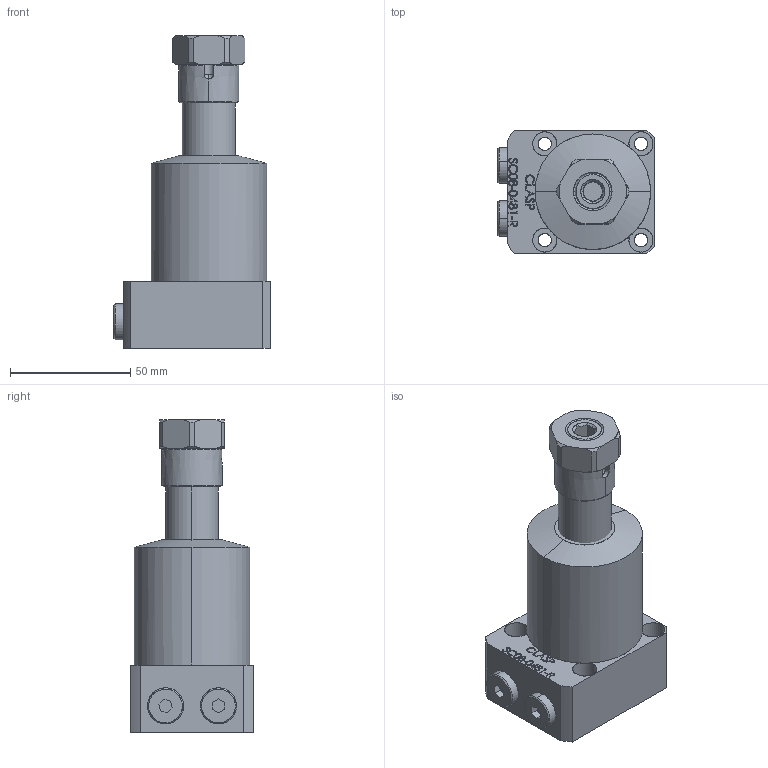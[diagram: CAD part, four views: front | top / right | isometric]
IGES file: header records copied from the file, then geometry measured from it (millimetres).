
Start section: SolidWorks IGES file using analytic representation for surfaces
Global section: file name: D:\karuppas\Clasp\3D model\SWING CYLINDER\bottom mounting swing cylinder\SC08-0481-R\SC08-0481-R.IGS; native system: SolidWorks 2017; preprocessor: SolidWorks 2017; author: pc; date: 220708.224733; units: millimetre
Bounding box: 65 x 51 x 130 mm (x, y, z)
Surface area: 36134 mm2 (no closed solid volume)
Topology: 0 solids, 0 shells, 386 faces, 5832 edges, 5831 vertices
Faces by surface type: bspline 281, revolution 105
